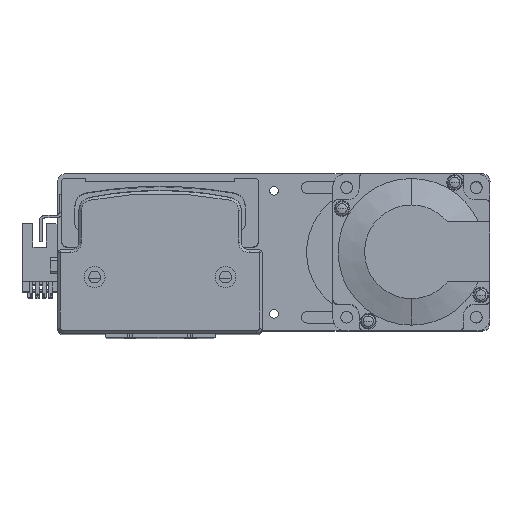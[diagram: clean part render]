
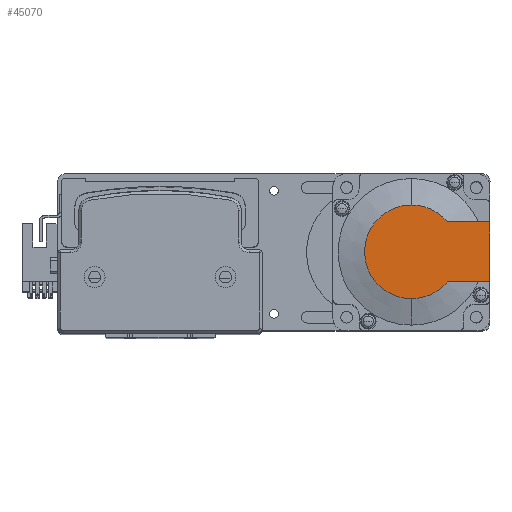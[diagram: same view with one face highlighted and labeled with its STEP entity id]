
A CAD part, top view. The second image highlights one B-rep face of the part: STEP entity #45070.
In plain terms, the highlighted planar face has unit normal (0, 0, 1) as drawn and (-1, 0, 0) by its records, which use the part's own axes.
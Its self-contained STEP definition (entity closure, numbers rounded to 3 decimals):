
#186 = VECTOR ( 'NONE', #38507, 1000. ) ;
#626 = EDGE_CURVE ( 'NONE', #39822, #34991, #37798, .T. ) ;
#822 = EDGE_CURVE ( 'NONE', #34991, #34166, #20881, .T. ) ;
#902 = EDGE_CURVE ( 'NONE', #11216, #22898, #38895, .T. ) ;
#968 = EDGE_CURVE ( 'NONE', #39822, #11216, #41696, .T. ) ;
#2507 = DIRECTION ( 'NONE',  ( -1., 0., 0. ) ) ;
#5293 = VECTOR ( 'NONE', #45767, 1000. ) ;
#8844 = VECTOR ( 'NONE', #43971, 1000. ) ;
#9169 = ORIENTED_EDGE ( 'NONE', *, *, #626, .T. ) ;
#9626 = AXIS2_PLACEMENT_3D ( 'NONE', #20255, #45397, #23847 ) ;
#9738 = PLANE ( 'NONE',  #22849 ) ;
#11216 = VERTEX_POINT ( 'NONE', #43288 ) ;
#11764 = EDGE_CURVE ( 'NONE', #25564, #22898, #25812, .T. ) ;
#12106 = EDGE_CURVE ( 'NONE', #34166, #25564, #21868, .T. ) ;
#12469 = ORIENTED_EDGE ( 'NONE', *, *, #12106, .T. ) ;
#13194 = CARTESIAN_POINT ( 'NONE',  ( -118.5, 0., 11.45 ) ) ;
#14786 = CARTESIAN_POINT ( 'NONE',  ( -118.5, 0., 0. ) ) ;
#16724 = CARTESIAN_POINT ( 'NONE',  ( -118.5, 13.735, 11.45 ) ) ;
#16917 = CARTESIAN_POINT ( 'NONE',  ( -118.5, 0., 0. ) ) ;
#17005 = CARTESIAN_POINT ( 'NONE',  ( -118.5, 13.735, -11.45 ) ) ;
#17030 = FACE_OUTER_BOUND ( 'NONE', #46354, .T. ) ;
#18527 = DIRECTION ( 'NONE',  ( 0., 0., -1. ) ) ;
#18720 = CARTESIAN_POINT ( 'NONE',  ( -118.5, 30., -11.45 ) ) ;
#20255 = CARTESIAN_POINT ( 'NONE',  ( -118.5, 0., 0. ) ) ;
#20597 = DIRECTION ( 'NONE',  ( 0., 0., -1. ) ) ;
#20629 = CARTESIAN_POINT ( 'NONE',  ( -118.5, 30., 25. ) ) ;
#20881 = CIRCLE ( 'NONE', #9626, 17.881 ) ;
#21138 = CARTESIAN_POINT ( 'NONE',  ( -118.5, 0., -17.881 ) ) ;
#21868 = CIRCLE ( 'NONE', #21874, 17.881 ) ;
#21874 = AXIS2_PLACEMENT_3D ( 'NONE', #14786, #40094, #18527 ) ;
#22585 = AXIS2_PLACEMENT_3D ( 'NONE', #16917, #42142, #20597 ) ;
#22849 = AXIS2_PLACEMENT_3D ( 'NONE', #24419, #2507, #28031 ) ;
#22898 = VERTEX_POINT ( 'NONE', #16724 ) ;
#23847 = DIRECTION ( 'NONE',  ( 0., 0., -1. ) ) ;
#24419 = CARTESIAN_POINT ( 'NONE',  ( -118.5, -8.941, 0. ) ) ;
#25564 = VERTEX_POINT ( 'NONE', #37917 ) ;
#25812 = CIRCLE ( 'NONE', #22585, 17.881 ) ;
#26502 = ORIENTED_EDGE ( 'NONE', *, *, #968, .F. ) ;
#28031 = DIRECTION ( 'NONE',  ( 0., 0., 1. ) ) ;
#31380 = ORIENTED_EDGE ( 'NONE', *, *, #902, .F. ) ;
#33124 = CARTESIAN_POINT ( 'NONE',  ( -118.5, -8.941, -11.45 ) ) ;
#34166 = VERTEX_POINT ( 'NONE', #21138 ) ;
#34991 = VERTEX_POINT ( 'NONE', #17005 ) ;
#36806 = ORIENTED_EDGE ( 'NONE', *, *, #11764, .T. ) ;
#37798 = LINE ( 'NONE', #33124, #8844 ) ;
#37917 = CARTESIAN_POINT ( 'NONE',  ( -118.5, 0., 17.881 ) ) ;
#38507 = DIRECTION ( 'NONE',  ( 0., -1., 0. ) ) ;
#38895 = LINE ( 'NONE', #13194, #186 ) ;
#39822 = VERTEX_POINT ( 'NONE', #18720 ) ;
#40094 = DIRECTION ( 'NONE',  ( -1., 0., 0. ) ) ;
#41696 = LINE ( 'NONE', #20629, #5293 ) ;
#42142 = DIRECTION ( 'NONE',  ( -1., 0., 0. ) ) ;
#43288 = CARTESIAN_POINT ( 'NONE',  ( -118.5, 30., 11.45 ) ) ;
#43971 = DIRECTION ( 'NONE',  ( 0., -1., 0. ) ) ;
#43995 = ORIENTED_EDGE ( 'NONE', *, *, #822, .T. ) ;
#45070 = ADVANCED_FACE ( 'NONE', ( #17030 ), #9738, .T. ) ;
#45397 = DIRECTION ( 'NONE',  ( -1., 0., 0. ) ) ;
#45767 = DIRECTION ( 'NONE',  ( 0., 0., 1. ) ) ;
#46354 = EDGE_LOOP ( 'NONE', ( #9169, #43995, #12469, #36806, #31380, #26502 ) ) ;
